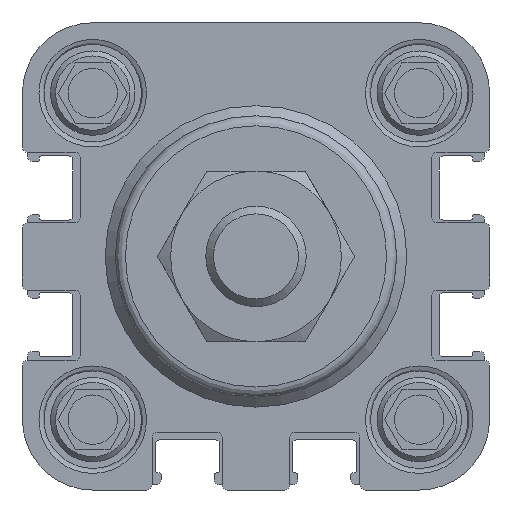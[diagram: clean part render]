
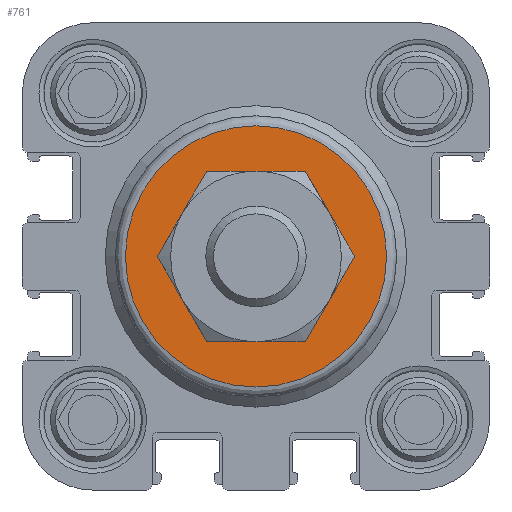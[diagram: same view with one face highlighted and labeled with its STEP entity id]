
A CAD part, left-side view. The second image highlights one B-rep face of the part: STEP entity #761.
In plain terms, the highlighted planar face has unit normal (-1, 0, 0).
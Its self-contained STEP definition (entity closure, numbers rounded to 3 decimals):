
#761 = ADVANCED_FACE( '', ( #1918, #1919 ), #1920, .F. );
#1918 = FACE_BOUND( '', #3546, .T. );
#1919 = FACE_OUTER_BOUND( '', #3547, .T. );
#1920 = PLANE( '', #3548 );
#3546 = EDGE_LOOP( '', ( #5740 ) );
#3547 = EDGE_LOOP( '', ( #5741 ) );
#3548 = AXIS2_PLACEMENT_3D( '', #5742, #5743, #5744 );
#5740 = ORIENTED_EDGE( '', *, *, #9745, .F. );
#5741 = ORIENTED_EDGE( '', *, *, #9746, .T. );
#5742 = CARTESIAN_POINT( '', ( -19., 0., 13. ) );
#5743 = DIRECTION( '', ( 1., 0., 0. ) );
#5744 = DIRECTION( '', ( 0., 0., -1. ) );
#9745 = EDGE_CURVE( '', #11829, #11829, #11830, .F. );
#9746 = EDGE_CURVE( '', #11831, #11831, #11832, .T. );
#11829 = VERTEX_POINT( '', #14647 );
#11830 = CIRCLE( '', #14648, 6. );
#11831 = VERTEX_POINT( '', #14649 );
#11832 = CIRCLE( '', #14650, 13. );
#14647 = CARTESIAN_POINT( '', ( -19., 0., -6. ) );
#14648 = AXIS2_PLACEMENT_3D( '', #17518, #17519, #17520 );
#14649 = CARTESIAN_POINT( '', ( -19., 0., 13. ) );
#14650 = AXIS2_PLACEMENT_3D( '', #17521, #17522, #17523 );
#17518 = CARTESIAN_POINT( '', ( -19., 0., 0. ) );
#17519 = DIRECTION( '', ( 1., 0., 0. ) );
#17520 = DIRECTION( '', ( 0., 0., -1. ) );
#17521 = CARTESIAN_POINT( '', ( -19., 0., 0. ) );
#17522 = DIRECTION( '', ( -1., 0., 0. ) );
#17523 = DIRECTION( '', ( 0., 0., 1. ) );
